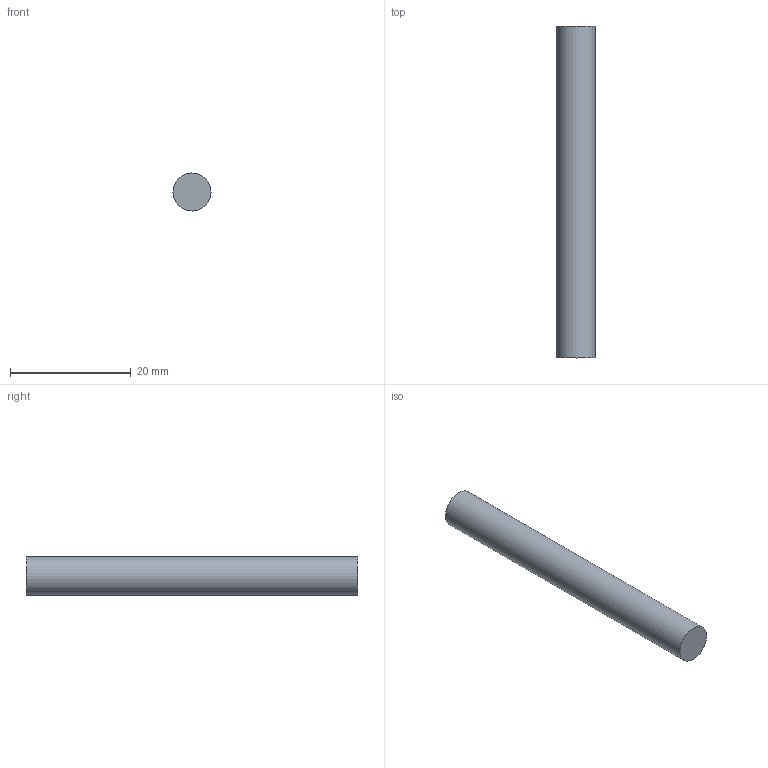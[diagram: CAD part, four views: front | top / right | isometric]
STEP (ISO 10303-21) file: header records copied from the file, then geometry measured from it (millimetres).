
FILE_DESCRIPTION(('Open CASCADE Model'),'2;1');
FILE_NAME('Open CASCADE Shape Model','2026-10-15T18:27:22',('Author'),( 'Open CASCADE'),'Open CASCADE STEP processor 7.9','Open CASCADE 7.9' ,'Unknown');
FILE_SCHEMA(('AUTOMOTIVE_DESIGN { 1 0 10303 214 1 1 1 1 }'));
Length unit declared in the file: millimetre
Products named in the file (1): Open CASCADE STEP translator 7.9 6
Bounding box: 6.3 x 55 x 6.3 mm (x, y, z)
Volume: 1714.5 mm3; surface area: 1150.9 mm2
Topology: 1 solids, 1 shells, 3 faces, 3 edges, 2 vertices
Faces by surface type: plane 2, cylinder 1
Full cylindrical faces by diameter (mm): 6.3 x1
Entity records: 108 total; most frequent: DIRECTION 19, CARTESIAN_POINT 15, AXIS2_PLACEMENT_3D 6, ORIENTED_EDGE 6, PCURVE 6, DEFINITIONAL_REPRESENTATION 6, LINE 5, VECTOR 5
